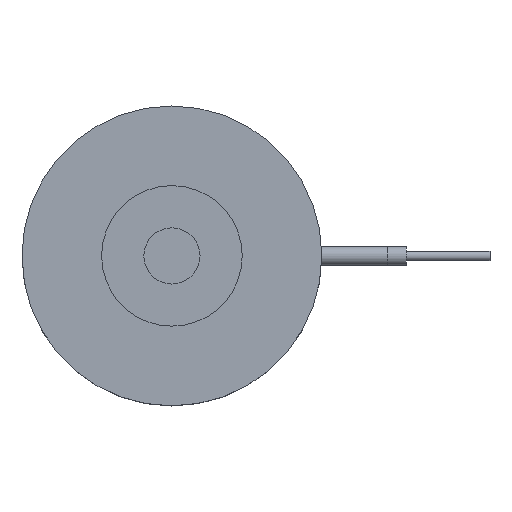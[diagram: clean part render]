
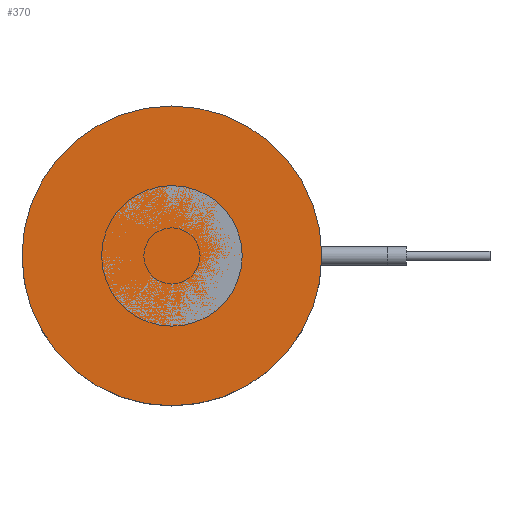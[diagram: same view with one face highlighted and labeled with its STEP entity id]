
A CAD part, top view. The second image highlights one B-rep face of the part: STEP entity #370.
In plain terms, the highlighted planar face has unit normal (0, 0, 1).
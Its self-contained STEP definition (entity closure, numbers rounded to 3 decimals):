
#221=PLANE('',#1305);
#277=FACE_OUTER_BOUND('',#619,.T.);
#370=ADVANCED_FACE('',(#277),#221,.F.);
#619=EDGE_LOOP('',(#849));
#849=ORIENTED_EDGE('',*,*,#1066,.F.);
#950=VERTEX_POINT('',#2109);
#1066=EDGE_CURVE('',#950,#950,#1145,.T.);
#1145=CIRCLE('',#1304,16.);
#1304=AXIS2_PLACEMENT_3D('',#2108,#1651,#1652);
#1305=AXIS2_PLACEMENT_3D('',#2110,#1653,#1654);
#1651=DIRECTION('',(0.,0.,-1.));
#1652=DIRECTION('',(-1.,0.,0.));
#1653=DIRECTION('',(0.,0.,-1.));
#1654=DIRECTION('',(-1.,0.,0.));
#2108=CARTESIAN_POINT('',(0.,0.,0.));
#2109=CARTESIAN_POINT('',(-16.,0.,0.));
#2110=CARTESIAN_POINT('',(0.,0.,0.));
